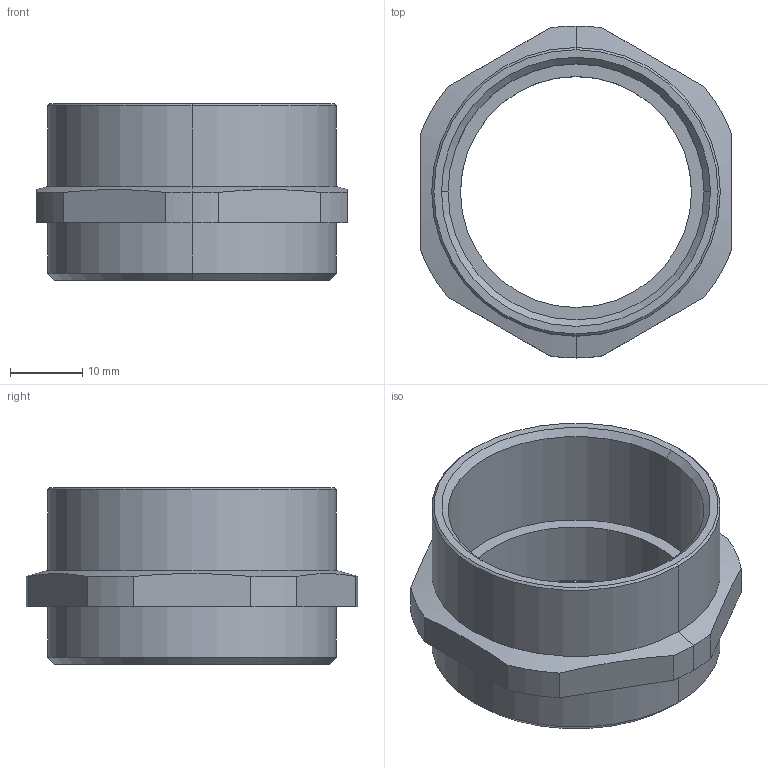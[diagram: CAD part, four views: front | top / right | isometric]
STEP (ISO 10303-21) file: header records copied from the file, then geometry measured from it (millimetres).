
FILE_DESCRIPTION (( 'STEP AP203' ), '1' );
FILE_NAME ('06329M40MU.STEP', '2006-05-22T13:44:09', ( ' ' ), ( '' ), 'SwSTEP 2.0', 'SolidWorks 2005278', '' );
FILE_SCHEMA (( 'CONFIG_CONTROL_DESIGN' ));
Length unit declared in the file: millimetre
Products named in the file (1): 06329M40MU
Bounding box: 43 x 46 x 24.5 mm (x, y, z)
Volume: 9619.3 mm3; surface area: 7050.8 mm2
Topology: 1 solids, 1 shells, 72 faces, 184 edges, 119 vertices
Faces by surface type: plane 47, cylinder 15, cone 10
Entity records: 2254 total; most frequent: CARTESIAN_POINT 402, ORIENTED_EDGE 368, DIRECTION 363, EDGE_CURVE 184, LINE 139, VECTOR 139, VERTEX_POINT 119, AXIS2_PLACEMENT_3D 112
